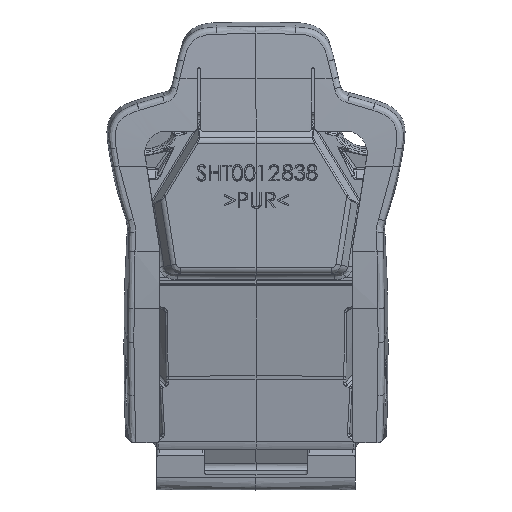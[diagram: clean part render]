
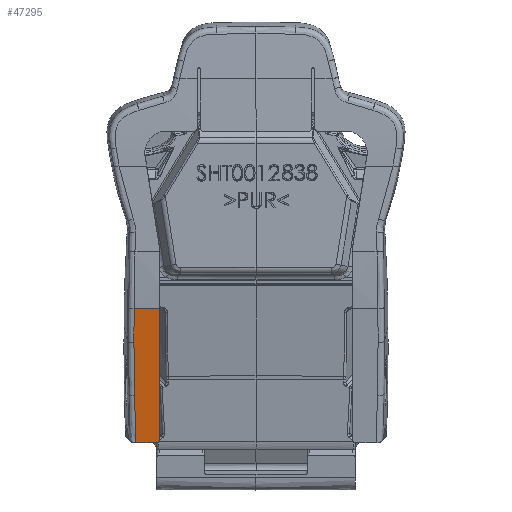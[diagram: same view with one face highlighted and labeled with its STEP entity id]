
A CAD part, left-side view. The second image highlights one B-rep face of the part: STEP entity #47295.
In plain terms, the highlighted planar face has unit normal (-0.984, 0.002, -0.181).
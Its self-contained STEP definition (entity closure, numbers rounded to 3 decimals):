
#47243=AXIS2_PLACEMENT_3D('Plane Axis2P3D',#47240,#47241,#47242) ;
#30467=CARTESIAN_POINT('Vertex',(603.63,-493.549,512.9)) ;
#30471=CARTESIAN_POINT('Control Point',(603.63,-493.549,512.9)) ;
#30472=CARTESIAN_POINT('Control Point',(602.031,-493.278,521.599)) ;
#30473=CARTESIAN_POINT('Control Point',(600.432,-493.014,530.297)) ;
#30474=CARTESIAN_POINT('Control Point',(598.834,-492.76,538.993)) ;
#30475=CARTESIAN_POINT('Control Point',(595.637,-492.273,556.387)) ;
#30476=CARTESIAN_POINT('Control Point',(592.438,-491.831,573.786)) ;
#30477=CARTESIAN_POINT('Control Point',(590.839,-491.623,582.488)) ;
#30478=CARTESIAN_POINT('Control Point',(589.238,-491.429,591.194)) ;
#30479=CARTESIAN_POINT('Control Point',(587.637,-491.25,599.905)) ;
#30480=CARTESIAN_POINT('Vertex',(587.637,-491.25,599.905)) ;
#30607=CARTESIAN_POINT('Vertex',(603.56,-532.773,512.857)) ;
#30610=CARTESIAN_POINT('Line Origine',(603.595,-513.161,512.878)) ;
#47107=CARTESIAN_POINT('Control Point',(587.637,-491.25,599.905)) ;
#47108=CARTESIAN_POINT('Control Point',(584.294,-490.874,618.091)) ;
#47109=CARTESIAN_POINT('Control Point',(580.687,-490.544,637.711)) ;
#47110=CARTESIAN_POINT('Control Point',(576.958,-490.283,657.994)) ;
#47111=CARTESIAN_POINT('Control Point',(573.249,-490.115,678.172)) ;
#47112=CARTESIAN_POINT('Control Point',(569.7,-490.063,697.474)) ;
#47113=CARTESIAN_POINT('Vertex',(569.7,-490.063,697.474)) ;
#47240=CARTESIAN_POINT('Axis2P3D Location',(558.177,-536.776,759.638)) ;
#47246=CARTESIAN_POINT('Control Point',(603.56,-532.773,512.857)) ;
#47247=CARTESIAN_POINT('Control Point',(603.559,-533.15,512.856)) ;
#47248=CARTESIAN_POINT('Control Point',(603.55,-533.527,512.904)) ;
#47249=CARTESIAN_POINT('Control Point',(603.532,-533.895,512.999)) ;
#47250=CARTESIAN_POINT('Control Point',(603.477,-534.616,513.285)) ;
#47251=CARTESIAN_POINT('Control Point',(603.393,-535.243,513.737)) ;
#47252=CARTESIAN_POINT('Control Point',(603.343,-535.534,514.005)) ;
#47253=CARTESIAN_POINT('Control Point',(603.229,-536.06,514.622)) ;
#47254=CARTESIAN_POINT('Control Point',(603.096,-536.429,515.34)) ;
#47255=CARTESIAN_POINT('Control Point',(603.024,-536.575,515.73)) ;
#47256=CARTESIAN_POINT('Control Point',(602.927,-536.706,516.254)) ;
#47257=CARTESIAN_POINT('Control Point',(602.829,-536.761,516.788)) ;
#47258=CARTESIAN_POINT('Control Point',(602.806,-536.769,516.914)) ;
#47259=CARTESIAN_POINT('Control Point',(602.783,-536.773,517.039)) ;
#47260=CARTESIAN_POINT('Control Point',(602.76,-536.773,517.164)) ;
#47261=CARTESIAN_POINT('Vertex',(602.76,-536.773,517.164)) ;
#47264=CARTESIAN_POINT('Line Origine',(580.469,-536.774,638.401)) ;
#47268=CARTESIAN_POINT('Vertex',(558.177,-536.776,759.638)) ;
#47271=CARTESIAN_POINT('Line Origine',(558.223,-513.543,759.641)) ;
#47275=CARTESIAN_POINT('Vertex',(558.269,-490.31,759.643)) ;
#47279=CARTESIAN_POINT('Control Point',(569.7,-490.063,697.474)) ;
#47280=CARTESIAN_POINT('Control Point',(567.414,-490.027,709.907)) ;
#47281=CARTESIAN_POINT('Control Point',(565.128,-490.033,722.341)) ;
#47282=CARTESIAN_POINT('Control Point',(562.842,-490.082,734.775)) ;
#47283=CARTESIAN_POINT('Control Point',(560.555,-490.174,747.209)) ;
#47284=CARTESIAN_POINT('Control Point',(558.269,-490.31,759.643)) ;
#30611=DIRECTION('Vector Direction',(-0.002,-1.,-0.001)) ;
#47241=DIRECTION('Axis2P3D Direction',(0.984,-0.002,0.181)) ;
#47242=DIRECTION('Axis2P3D XDirection',(0.181,0.,-0.984)) ;
#47265=DIRECTION('Vector Direction',(0.181,0.,-0.984)) ;
#47272=DIRECTION('Vector Direction',(-0.002,-1.,0.)) ;
#30612=VECTOR('Line Direction',#30611,1.) ;
#47266=VECTOR('Line Direction',#47265,1.) ;
#47273=VECTOR('Line Direction',#47272,1.) ;
#47287=ORIENTED_EDGE('',*,*,#30614,.T.) ;
#47288=ORIENTED_EDGE('',*,*,#47263,.T.) ;
#47289=ORIENTED_EDGE('',*,*,#47270,.F.) ;
#47290=ORIENTED_EDGE('',*,*,#47277,.F.) ;
#47291=ORIENTED_EDGE('',*,*,#47285,.F.) ;
#47292=ORIENTED_EDGE('',*,*,#47115,.T.) ;
#47293=ORIENTED_EDGE('',*,*,#30482,.T.) ;
#47295=ADVANCED_FACE('SHT0012838',(#47294),#47244,.F.) ;
#30470=B_SPLINE_CURVE_WITH_KNOTS('',5,(#30471,#30472,#30473,#30474,#30475,#30476,#30477,#30478,#30479),.UNSPECIFIED.,.F.,.U.,(6,3,6),(232.574,276.854,321.133),.UNSPECIFIED.) ;
#47106=B_SPLINE_CURVE_WITH_KNOTS('',5,(#47107,#47108,#47109,#47110,#47111,#47112),.UNSPECIFIED.,.F.,.U.,(6,6),(430.347,529.677),.UNSPECIFIED.) ;
#47245=B_SPLINE_CURVE_WITH_KNOTS('',5,(#47246,#47247,#47248,#47249,#47250,#47251,#47252,#47253,#47254,#47255,#47256,#47257,#47258,#47259,#47260),.UNSPECIFIED.,.F.,.U.,(6,3,3,3,6),(0.,2.671,5.468,8.434,9.334),.UNSPECIFIED.) ;
#47278=B_SPLINE_CURVE_WITH_KNOTS('',5,(#47279,#47280,#47281,#47282,#47283,#47284),.UNSPECIFIED.,.F.,.U.,(6,6),(0.,89.396),.UNSPECIFIED.) ;
#30482=EDGE_CURVE('',#30481,#30468,#30470,.F.) ;
#30614=EDGE_CURVE('',#30468,#30608,#30613,.T.) ;
#47115=EDGE_CURVE('',#47114,#30481,#47106,.F.) ;
#47263=EDGE_CURVE('',#30608,#47262,#47245,.T.) ;
#47270=EDGE_CURVE('',#47269,#47262,#47267,.T.) ;
#47277=EDGE_CURVE('',#47276,#47269,#47274,.T.) ;
#47285=EDGE_CURVE('',#47114,#47276,#47278,.T.) ;
#47286=EDGE_LOOP('',(#47287,#47288,#47289,#47290,#47291,#47292,#47293)) ;
#47294=FACE_OUTER_BOUND('',#47286,.T.) ;
#30613=LINE('Line',#30610,#30612) ;
#47267=LINE('Line',#47264,#47266) ;
#47274=LINE('Line',#47271,#47273) ;
#47244=PLANE('Plane',#47243) ;
#30468=VERTEX_POINT('',#30467) ;
#30481=VERTEX_POINT('',#30480) ;
#30608=VERTEX_POINT('',#30607) ;
#47114=VERTEX_POINT('',#47113) ;
#47262=VERTEX_POINT('',#47261) ;
#47269=VERTEX_POINT('',#47268) ;
#47276=VERTEX_POINT('',#47275) ;
